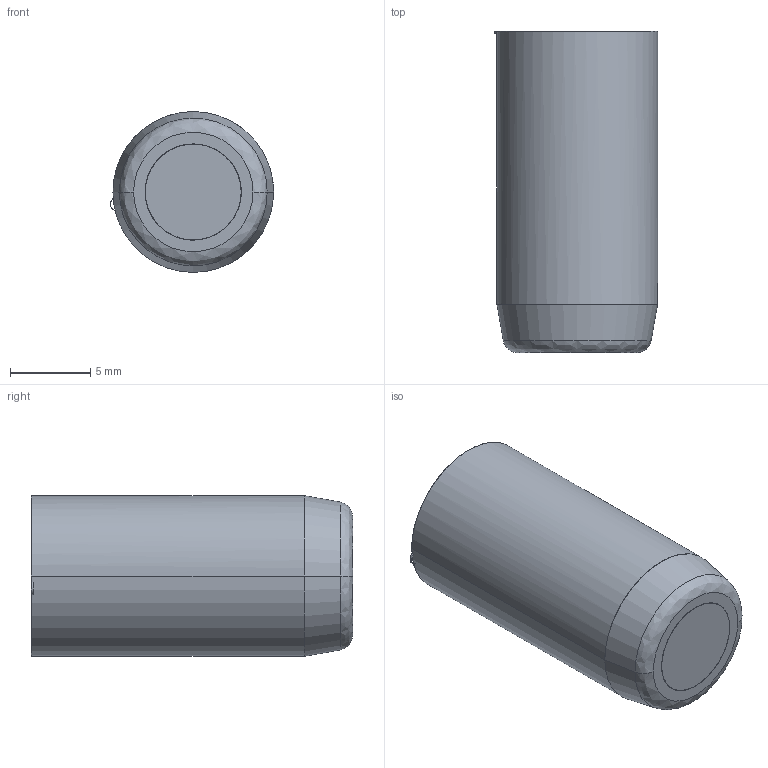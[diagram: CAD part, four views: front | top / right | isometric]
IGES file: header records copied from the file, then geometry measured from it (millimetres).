
Start section: START RECORD GO HERE.
Global section: file name: fa105712-21.igs; native system: DASSAULT SYSTEMES CATIA V5 R20 - www.3ds.com; preprocessor: CATIA Version 5 Release 20 ; author: Utente; organization: NB04-ASUS; date: 20201108.083640; units: millimetre
Bounding box: 10.15 x 20 x 10 mm (x, y, z)
Surface area: 1751.1 mm2 (no closed solid volume)
Topology: 0 solids, 0 shells, 420 faces, 2079 edges, 2068 vertices
Faces by surface type: revolution 183, plane 150, bspline 87
